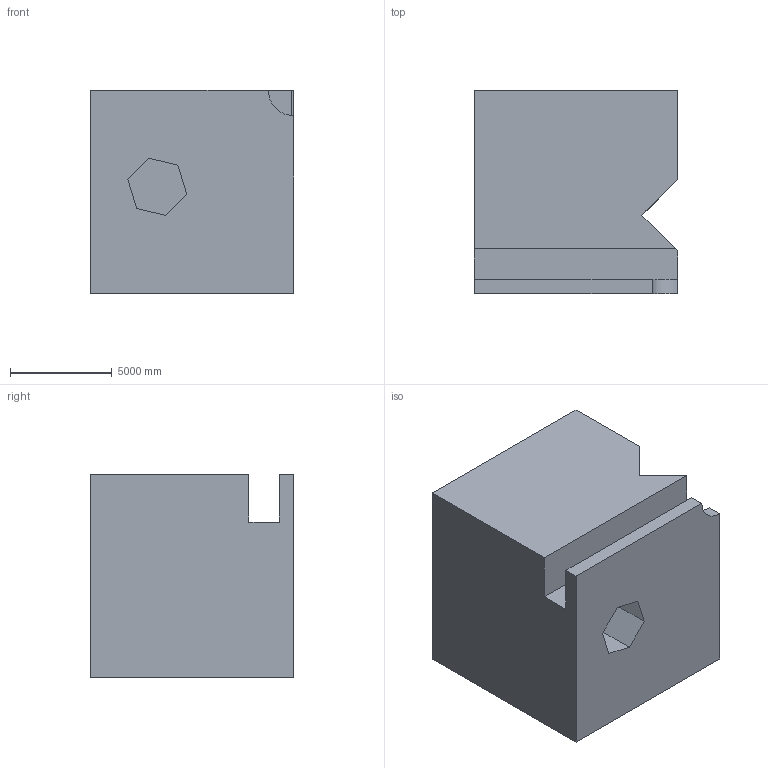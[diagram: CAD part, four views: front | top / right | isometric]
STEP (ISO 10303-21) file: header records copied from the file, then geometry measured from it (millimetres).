
FILE_DESCRIPTION (( 'STEP AP203' ), '1' );
FILE_NAME ('650.STEP', '2022-08-05T15:19:36', ( 'user' ), ( '' ), 'SwSTEP 2.0', 'SolidWorks 2021', '' );
FILE_SCHEMA (( 'CONFIG_CONTROL_DESIGN' ));
Length unit declared in the file: centimetre
Products named in the file (1): 650
Bounding box: 10000 x 10000 x 10000 mm (x, y, z)
Volume: 840033204018.5 mm3; surface area: 756809956.9 mm2
Topology: 1 solids, 1 shells, 35 faces, 96 edges, 64 vertices
Faces by surface type: plane 30, cylinder 5
Entity records: 1183 total; most frequent: CARTESIAN_POINT 208, ORIENTED_EDGE 192, DIRECTION 176, EDGE_CURVE 96, LINE 80, VECTOR 80, VERTEX_POINT 64, AXIS2_PLACEMENT_3D 48
